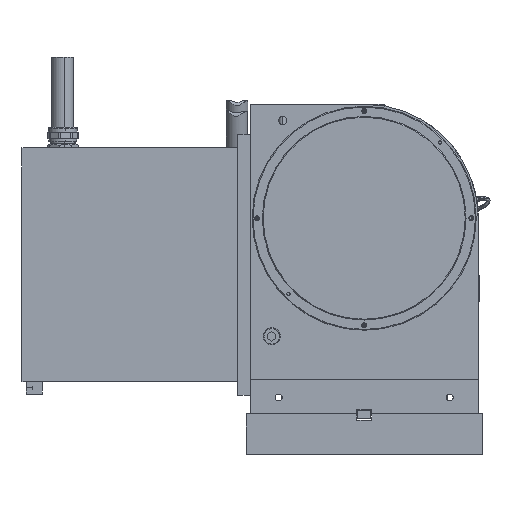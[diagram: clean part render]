
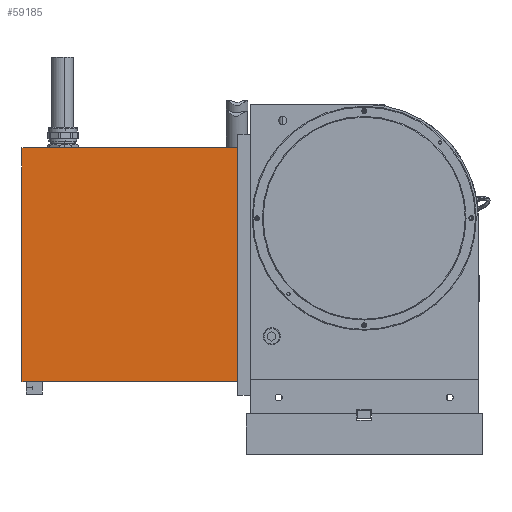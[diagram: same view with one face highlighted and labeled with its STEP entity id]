
A CAD part, left-side view. The second image highlights one B-rep face of the part: STEP entity #59185.
In plain terms, the highlighted planar face has unit normal (-1, 0, 0).
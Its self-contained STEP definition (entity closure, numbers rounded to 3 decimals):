
#56 = ORIENTED_EDGE ( 'NONE', *, *, #70393, .T. ) ;
#167 = VECTOR ( 'NONE', #39191, 1000. ) ;
#6020 = VECTOR ( 'NONE', #61071, 1000. ) ;
#7158 = EDGE_CURVE ( 'NONE', #64524, #71561, #40003, .T. ) ;
#9531 = LINE ( 'NONE', #35296, #81907 ) ;
#17509 = ORIENTED_EDGE ( 'NONE', *, *, #7158, .F. ) ;
#17899 = EDGE_CURVE ( 'NONE', #45590, #64524, #9531, .T. ) ;
#17969 = FACE_OUTER_BOUND ( 'NONE', #48735, .T. ) ;
#25377 = VERTEX_POINT ( 'NONE', #35661 ) ;
#25833 = CARTESIAN_POINT ( 'NONE',  ( -494.3, 420., -200.8 ) ) ;
#26599 = ORIENTED_EDGE ( 'NONE', *, *, #17899, .F. ) ;
#31474 = CARTESIAN_POINT ( 'NONE',  ( -494.3, 420., 84. ) ) ;
#34740 = VECTOR ( 'NONE', #77709, 1000. ) ;
#34948 = LINE ( 'NONE', #54328, #6020 ) ;
#35296 = CARTESIAN_POINT ( 'NONE',  ( -494.3, 420., 84. ) ) ;
#35661 = CARTESIAN_POINT ( 'NONE',  ( -494.3, 155., -200.8 ) ) ;
#38149 = CARTESIAN_POINT ( 'NONE',  ( -494.3, 420., 86.3 ) ) ;
#39191 = DIRECTION ( 'NONE',  ( 0., -1., 0. ) ) ;
#40003 = LINE ( 'NONE', #64472, #167 ) ;
#43300 = PLANE ( 'NONE',  #71210 ) ;
#45590 = VERTEX_POINT ( 'NONE', #25833 ) ;
#48735 = EDGE_LOOP ( 'NONE', ( #61308, #17509, #26599, #56 ) ) ;
#49593 = DIRECTION ( 'NONE',  ( 0., 0., 1. ) ) ;
#49603 = DIRECTION ( 'NONE',  ( 0., -1., 0. ) ) ;
#51987 = LINE ( 'NONE', #52398, #34740 ) ;
#52398 = CARTESIAN_POINT ( 'NONE',  ( -494.3, 155., 84. ) ) ;
#54328 = CARTESIAN_POINT ( 'NONE',  ( -494.3, 420., -200.8 ) ) ;
#58337 = CARTESIAN_POINT ( 'NONE',  ( -494.3, 155., 86.3 ) ) ;
#58350 = EDGE_CURVE ( 'NONE', #25377, #71561, #51987, .T. ) ;
#59185 = ADVANCED_FACE ( 'NONE', ( #17969 ), #43300, .T. ) ;
#61071 = DIRECTION ( 'NONE',  ( 0., -1., 0. ) ) ;
#61308 = ORIENTED_EDGE ( 'NONE', *, *, #58350, .T. ) ;
#64472 = CARTESIAN_POINT ( 'NONE',  ( -494.3, 420., 86.3 ) ) ;
#64524 = VERTEX_POINT ( 'NONE', #38149 ) ;
#70393 = EDGE_CURVE ( 'NONE', #45590, #25377, #34948, .T. ) ;
#71210 = AXIS2_PLACEMENT_3D ( 'NONE', #31474, #81659, #49603 ) ;
#71561 = VERTEX_POINT ( 'NONE', #58337 ) ;
#77709 = DIRECTION ( 'NONE',  ( 0., 0., 1. ) ) ;
#81659 = DIRECTION ( 'NONE',  ( -1., 0., 0. ) ) ;
#81907 = VECTOR ( 'NONE', #49593, 1000. ) ;
